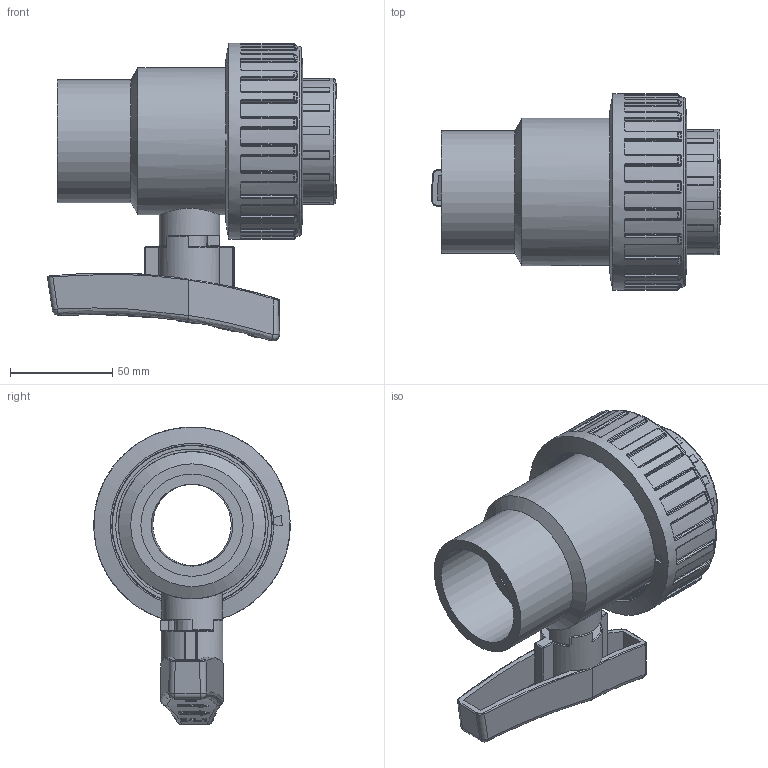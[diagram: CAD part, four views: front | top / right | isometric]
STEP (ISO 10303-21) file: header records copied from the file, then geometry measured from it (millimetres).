
FILE_DESCRIPTION(/* description */ (''),/* implementation_level */ '2;1');
FILE_NAME(/* name */ 'C:\ex desktop\VALVOLE SFERA\BV ACQUA\VALVOLE BVS MM\BVS40\BVS40050\BVS40050_new_handle.stp',/* time_stamp */ '2019-04-17T10:01:11+02:00',/* author */ ('e.sacchi'),/* organization */ (''),/* preprocessor_version */ 'ST-DEVELOPER v16.13',/* originating_system */ 'Autodesk Inventor 2018',/* authorisation */ '');
FILE_SCHEMA (('AUTOMOTIVE_DESIGN { 1 0 10303 214 3 1 1 }'));
Length unit declared in the file: millimetre
Products named in the file (13): BVS10050; CORPO_BVS_10_d_50; asta_BVD_40_d_50; sfera_BVD_40_d_50; LAV0115E; supporto_BVD_40_d_50; LAV0159E; LAV3181E; PTFE_BVI_10_d_50; LAV6187E; collare_BVD_40_d_50; ghiera_BVI_40_d_50; maniglia_BVI_10_d_50
Assembly tree (15 placements, depth 2):
  BVS10050
    CORPO_BVS_10_d_50
    LAV3181E  x2
    PTFE_BVI_10_d_50  x2
    asta_BVD_40_d_50
    sfera_BVD_40_d_50
    LAV0115E  x2
    supporto_BVD_40_d_50
    LAV0159E
    LAV6187E
    collare_BVD_40_d_50
    ghiera_BVI_40_d_50
    maniglia_BVI_10_d_50
Bounding box: 141.36 x 95.98 x 145.66 mm (x, y, z)
Volume: 378746.7 mm3; surface area: 176946.6 mm2
Topology: 17 solids, 17 shells, 1491 faces, 3812 edges, 2417 vertices
Faces by surface type: plane 532, bspline 389, cylinder 328, torus 154, sphere 55, cone 33
Full cylindrical faces by diameter (mm): 5 x1, 12.795 x2, 17.2 x1, 17.7 x1, 18 x1, 29.5 x1, 40 x4, 45 x1, 45.6 x1, 46.5 x1, 50 x3, 50.6 x3, 57.8 x1, 60 x2, 61.5 x1, 61.986 x2, 62 x1, 63 x1, 65 x2, 72 x3, 74.621 x1, 80 x7, 93 x1, 96 x1
Entity records: 64080 total; most frequent: CARTESIAN_POINT 29367, ORIENTED_EDGE 7404, DIRECTION 6732, EDGE_CURVE 3702, AXIS2_PLACEMENT_3D 2582, VERTEX_POINT 2375, EDGE_LOOP 1619, LINE 1568
